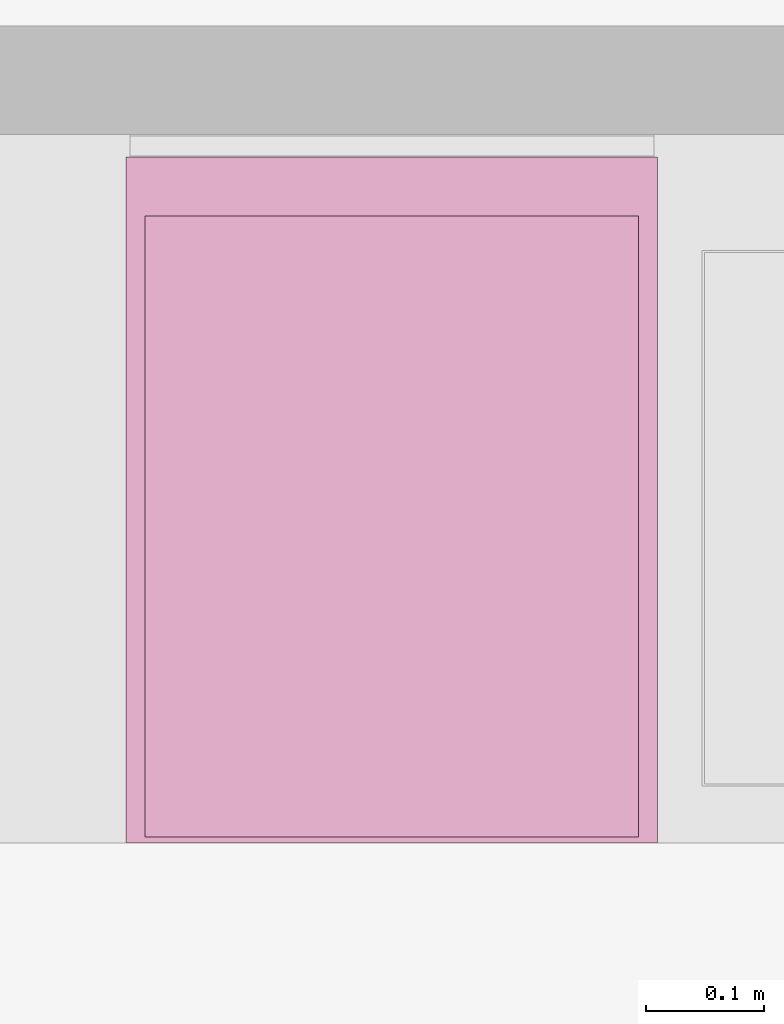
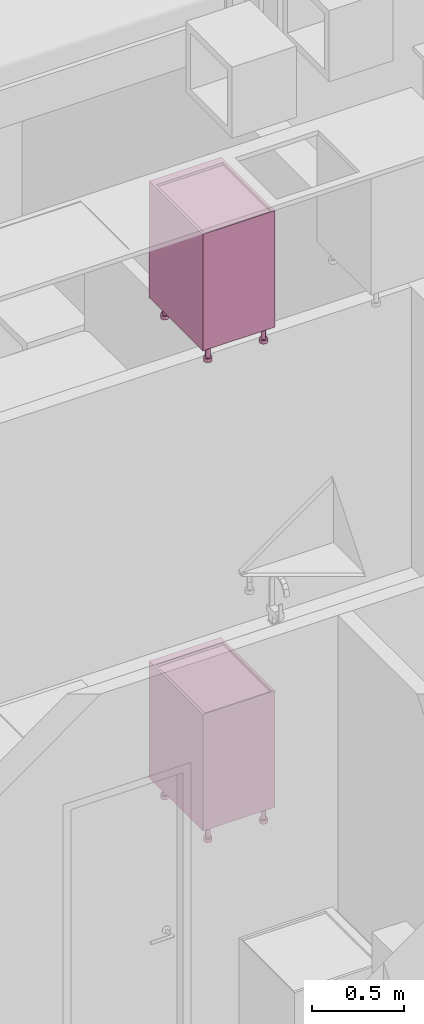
# One storey, part 66 of 125: 2 furnishings.
"""IFC2X3 building model written with IfcOpenShell, lengths in millimetres."""

from ifc_helpers import new_model, entity, si_unit, converted_unit, direction, frame, origin, place, context, subcontext, project, spatial, faceted_brep, source, transform, mapped, material, type_object, type_shapes, element, save


model = new_model("IFC2X3")

# Units and contexts
model_context = context("Model", 3, precision=0.01, world=origin(), true_north=direction((6.123233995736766e-17, 1.0)))
plan_context = context("Plan", 3, precision=0.01, world=origin(), true_north=direction((6.123233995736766e-17, 1.0)))
body_context = subcontext(model_context, "Body", "Model", "MODEL_VIEW")
ifc_project = project(units=[si_unit("LENGTHUNIT", "METRE", prefix="MILLI"), converted_unit("PLANEANGLEUNIT", "DEGREE", entity("IfcPlaneAngleMeasure", 0.017453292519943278), si_unit("PLANEANGLEUNIT", "RADIAN"), dimensions=[0, 0, 0, 0, 0, 0, 0]), si_unit("AREAUNIT", "SQUARE_METRE")], contexts=[model_context, plan_context])

# Site, building, storey, space
site_placement = place(None, origin())
site = spatial("IfcSite", under=ifc_project, at=site_placement, Name="Default", CompositionType="ELEMENT")
building_placement = place(site_placement, origin())
building = spatial("IfcBuilding", under=site, at=building_placement, CompositionType="ELEMENT")
storey_placement = place(building_placement, frame((0.0, 0.0, 3125.0)))
storey = spatial("IfcBuildingStorey", under=building, at=storey_placement, Name="2K", CompositionType="ELEMENT", Elevation=3125.0)
space_placement = place(storey_placement, origin())
space = spatial("IfcSpace", under=storey, at=space_placement, Name="2-1.2", CompositionType="ELEMENT", InteriorOrExteriorSpace="INTERNAL")

# Furnishings
ifc_material = material(Name="<Unnamed>")
furniture_type = type_object("IfcFurnitureType", Name="HR_Casework_Kitchen_Generic_Appliance_v1:Dishwasher", AssemblyPlace="NOTDEFINED", material=ifc_material)
shared_shape = source(origin(), body_context, "Body", "Brep", [
    faceted_brep([(230.70032643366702, -585.7846096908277, -3101.0), (235.6708891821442, -581.9705627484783, -3101.0), (225.70032643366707, -577.1243556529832, -3101.0), (222.32379306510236, -578.522961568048, -3101.0), (224.91198351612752, -588.1822198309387, -3101.0), (228.59982137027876, -574.8994949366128, -3101.0), (239.4849361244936, -577.0, -3101.0), (230.82468208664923, -572.0, -3101.0), (232.22328800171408, -568.6234666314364, -3101.0), (241.88254626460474, -571.2116570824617, -3101.0), (232.70032643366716, -565.0, -3101.0), (242.70032643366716, -565.0, -3101.0), (232.22328800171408, -561.3765333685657, -3101.0), (241.88254626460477, -558.7883429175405, -3101.0), (230.82468208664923, -558.0, -3101.0), (239.48493612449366, -553.0, -3101.0), (228.59982137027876, -555.1005050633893, -3101.0), (235.6708891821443, -548.0294372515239, -3101.0), (225.70032643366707, -552.8756443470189, -3101.0), (230.70032643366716, -544.2153903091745, -3101.0), (222.32379306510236, -551.477038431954, -3101.0), (224.91198351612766, -541.8177801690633, -3101.0), (218.70032643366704, -551.0, -3101.0), (218.7003264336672, -541.0, -3101.0), (215.0768598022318, -551.477038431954, -3101.0), (212.48866935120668, -541.8177801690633, -3101.0), (211.70032643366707, -552.8756443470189, -3101.0), (206.7003264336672, -544.2153903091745, -3101.0), (208.80083149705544, -555.1005050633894, -3101.0), (201.72976368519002, -548.0294372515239, -3101.0), (206.57597078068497, -558.0, -3101.0), (197.91571674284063, -553.0, -3101.0), (195.51810660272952, -558.7883429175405, -3101.0), (205.17736486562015, -561.3765333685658, -3101.0), (194.70032643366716, -565.0, -3101.0), (204.70032643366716, -565.0, -3101.0), (195.5181066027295, -571.2116570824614, -3101.0), (205.17736486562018, -568.6234666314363, -3101.0), (197.91571674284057, -577.0, -3101.0), (206.575970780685, -572.0, -3101.0), (201.72976368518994, -581.9705627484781, -3101.0), (208.80083149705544, -574.8994949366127, -3101.0), (206.70032643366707, -585.7846096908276, -3101.0), (211.70032643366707, -577.1243556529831, -3101.0), (212.48866935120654, -588.1822198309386, -3101.0), (215.0768598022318, -578.522961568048, -3101.0), (218.70032643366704, -589.0, -3101.0), (218.70032643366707, -579.0, -3101.0), (224.91198351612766, -541.8177801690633, -3125.0), (230.70032643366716, -544.2153903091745, -3125.0), (235.6708891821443, -548.0294372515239, -3125.0), (239.48493612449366, -553.0, -3125.0), (241.88254626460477, -558.7883429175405, -3125.0), (242.70032643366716, -565.0, -3125.0), (241.88254626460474, -571.2116570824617, -3125.0), (239.4849361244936, -577.0, -3125.0), (235.6708891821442, -581.9705627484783, -3125.0), (230.70032643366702, -585.7846096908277, -3125.0), (224.91198351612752, -588.1822198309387, -3125.0), (218.70032643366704, -589.0, -3125.0), (212.48866935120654, -588.1822198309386, -3125.0), (206.70032643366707, -585.7846096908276, -3125.0), (201.72976368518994, -581.9705627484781, -3125.0), (197.91571674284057, -577.0, -3125.0), (195.5181066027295, -571.2116570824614, -3125.0), (194.70032643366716, -565.0, -3125.0), (195.51810660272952, -558.7883429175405, -3125.0), (197.91571674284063, -553.0, -3125.0), (201.72976368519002, -548.0294372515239, -3125.0), (206.7003264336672, -544.2153903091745, -3125.0), (212.48866935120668, -541.8177801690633, -3125.0), (218.7003264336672, -541.0, -3125.0), (222.32379306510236, -578.522961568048, -3025.0), (225.70032643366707, -577.1243556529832, -3025.0), (228.59982137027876, -574.8994949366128, -3025.0), (230.82468208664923, -572.0, -3025.0), (232.22328800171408, -568.6234666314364, -3025.0), (232.70032643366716, -565.0, -3025.0), (232.2232880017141, -561.3765333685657, -3025.0), (230.8246820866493, -558.0, -3025.0), (228.59982137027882, -555.1005050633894, -3025.0), (225.70032643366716, -552.8756443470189, -3025.0), (222.32379306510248, -551.477038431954, -3025.0), (218.7003264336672, -551.0, -3025.0), (215.07685980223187, -551.477038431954, -3025.0), (211.7003264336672, -552.8756443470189, -3025.0), (208.8008314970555, -555.1005050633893, -3025.0), (206.57597078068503, -558.0, -3025.0), (205.17736486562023, -561.3765333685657, -3025.0), (204.70032643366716, -565.0, -3025.0), (205.17736486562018, -568.6234666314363, -3025.0), (206.575970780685, -572.0, -3025.0), (208.80083149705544, -574.8994949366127, -3025.0), (211.70032643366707, -577.1243556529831, -3025.0), (215.0768598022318, -578.522961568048, -3025.0), (218.70032643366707, -579.0, -3025.0)], [[[0, 1, 2]], [[0, 2, 3]], [[3, 4, 0]], [[2, 1, 5]], [[6, 5, 1]], [[7, 5, 6]], [[8, 7, 6]], [[8, 6, 9]], [[8, 9, 10]], [[10, 9, 11]], [[12, 10, 11]], [[12, 11, 13]], [[14, 12, 13]], [[14, 13, 15]], [[16, 14, 15]], [[15, 17, 16]], [[17, 18, 16]], [[18, 17, 19]], [[18, 19, 20]], [[21, 20, 19]], [[20, 21, 22]], [[22, 21, 23]], [[23, 24, 22]], [[24, 23, 25]], [[24, 25, 26]], [[27, 26, 25]], [[27, 28, 26]], [[27, 29, 28]], [[30, 28, 29]], [[31, 30, 29]], [[32, 30, 31]], [[33, 30, 32]], [[33, 32, 34]], [[34, 35, 33]], [[36, 35, 34]], [[36, 37, 35]], [[37, 36, 38]], [[39, 37, 38]], [[39, 38, 40]], [[39, 40, 41]], [[40, 42, 41]], [[41, 42, 43]], [[43, 42, 44]], [[44, 45, 43]], [[46, 45, 44]], [[4, 47, 46]], [[45, 46, 47]], [[4, 3, 47]], [[48, 49, 50, 51, 52, 53, 54, 55, 56, 57, 58, 59, 60, 61, 62, 63, 64, 65, 66, 67, 68, 69, 70, 71]], [[64, 36, 34, 65]], [[63, 38, 36, 64]], [[42, 40, 62, 61]], [[63, 62, 40, 38]], [[44, 42, 61, 60]], [[46, 44, 60, 59]], [[58, 4, 46, 59]], [[57, 0, 4, 58]], [[54, 53, 11, 9]], [[1, 0, 57, 56]], [[6, 55, 54, 9]], [[6, 1, 56, 55]], [[52, 13, 11, 53]], [[51, 15, 13, 52]], [[19, 17, 50, 49]], [[51, 50, 17, 15]], [[21, 19, 49, 48]], [[23, 21, 48, 71]], [[27, 69, 68, 29]], [[31, 67, 66, 32]], [[68, 67, 31, 29]], [[32, 66, 65, 34]], [[25, 70, 69, 27]], [[70, 25, 23, 71]], [[72, 73, 74, 75, 76, 77, 78, 79, 80, 81, 82, 83, 84, 85, 86, 87, 88, 89, 90, 91, 92, 93, 94, 95]], [[37, 39, 91, 90]], [[35, 37, 90, 89]], [[43, 45, 94, 93]], [[41, 43, 93, 92]], [[39, 41, 92, 91]], [[47, 95, 94, 45]], [[2, 5, 74, 73]], [[3, 2, 73, 72]], [[8, 10, 77, 76]], [[7, 8, 76, 75]], [[5, 7, 75, 74]], [[3, 72, 95, 47]], [[79, 78, 12, 14]], [[78, 77, 10, 12]], [[80, 16, 18, 81]], [[16, 80, 79, 14]], [[81, 18, 20, 82]], [[22, 83, 82, 20]], [[26, 28, 86, 85]], [[24, 26, 85, 84]], [[33, 35, 89, 88]], [[30, 33, 88, 87]], [[28, 30, 87, 86]], [[24, 84, 83, 22]]]),
    faceted_brep([(-117.2996735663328, -585.7846096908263, -3101.0), (-112.32911081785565, -581.9705627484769, -3101.0), (-122.29967356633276, -577.1243556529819, -3101.0), (-125.67620693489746, -578.5229615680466, -3101.0), (-123.08801648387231, -588.1822198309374, -3101.0), (-119.40017862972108, -574.8994949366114, -3101.0), (-108.51506387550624, -577.0, -3101.0), (-117.1753179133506, -572.0, -3101.0), (-115.77671199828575, -568.623466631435, -3101.0), (-106.11745373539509, -571.2116570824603, -3101.0), (-115.29967356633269, -565.0, -3101.0), (-105.29967356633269, -565.0, -3101.0), (-115.77671199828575, -561.3765333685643, -3101.0), (-106.11745373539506, -558.7883429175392, -3101.0), (-117.1753179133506, -558.0, -3101.0), (-108.51506387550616, -553.0, -3101.0), (-119.40017862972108, -555.1005050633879, -3101.0), (-112.32911081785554, -548.0294372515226, -3101.0), (-122.29967356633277, -552.8756443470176, -3101.0), (-117.29967356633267, -544.2153903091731, -3101.0), (-125.67620693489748, -551.4770384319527, -3101.0), (-123.08801648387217, -541.817780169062, -3101.0), (-129.29967356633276, -551.0, -3101.0), (-129.29967356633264, -541.0, -3101.0), (-132.92314019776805, -551.4770384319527, -3101.0), (-135.51133064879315, -541.817780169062, -3101.0), (-136.29967356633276, -552.8756443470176, -3101.0), (-141.29967356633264, -544.2153903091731, -3101.0), (-139.1991685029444, -555.100505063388, -3101.0), (-146.2702363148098, -548.0294372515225, -3101.0), (-141.42402921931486, -558.0, -3101.0), (-150.0842832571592, -553.0, -3101.0), (-152.4818933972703, -558.7883429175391, -3101.0), (-142.82263513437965, -561.3765333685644, -3101.0), (-153.2996735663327, -565.0, -3101.0), (-143.29967356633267, -565.0, -3101.0), (-152.48189339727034, -571.2116570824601, -3101.0), (-142.82263513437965, -568.6234666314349, -3101.0), (-150.08428325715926, -577.0, -3101.0), (-141.42402921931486, -572.0, -3101.0), (-146.2702363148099, -581.9705627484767, -3101.0), (-139.1991685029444, -574.8994949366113, -3101.0), (-141.29967356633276, -585.7846096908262, -3101.0), (-136.29967356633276, -577.1243556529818, -3101.0), (-135.5113306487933, -588.1822198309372, -3101.0), (-132.92314019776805, -578.5229615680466, -3101.0), (-129.2996735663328, -589.0, -3101.0), (-129.29967356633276, -579.0, -3101.0), (-123.08801648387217, -541.817780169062, -3125.0), (-117.29967356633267, -544.2153903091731, -3125.0), (-112.32911081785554, -548.0294372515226, -3125.0), (-108.51506387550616, -553.0, -3125.0), (-106.11745373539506, -558.7883429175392, -3125.0), (-105.29967356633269, -565.0, -3125.0), (-106.11745373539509, -571.2116570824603, -3125.0), (-108.51506387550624, -577.0, -3125.0), (-112.32911081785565, -581.9705627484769, -3125.0), (-117.2996735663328, -585.7846096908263, -3125.0), (-123.08801648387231, -588.1822198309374, -3125.0), (-129.2996735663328, -589.0, -3125.0), (-135.5113306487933, -588.1822198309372, -3125.0), (-141.29967356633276, -585.7846096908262, -3125.0), (-146.2702363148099, -581.9705627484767, -3125.0), (-150.08428325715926, -577.0, -3125.0), (-152.48189339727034, -571.2116570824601, -3125.0), (-153.2996735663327, -565.0, -3125.0), (-152.4818933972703, -558.7883429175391, -3125.0), (-150.0842832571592, -553.0, -3125.0), (-146.2702363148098, -548.0294372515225, -3125.0), (-141.29967356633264, -544.2153903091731, -3125.0), (-135.51133064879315, -541.817780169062, -3125.0), (-129.29967356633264, -541.0, -3125.0), (-125.67620693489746, -578.5229615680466, -3025.0), (-122.29967356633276, -577.1243556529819, -3025.0), (-119.40017862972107, -574.8994949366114, -3025.0), (-117.1753179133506, -572.0, -3025.0), (-115.77671199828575, -568.623466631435, -3025.0), (-115.29967356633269, -565.0, -3025.0), (-115.77671199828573, -561.3765333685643, -3025.0), (-117.17531791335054, -558.0, -3025.0), (-119.400178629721, -555.100505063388, -3025.0), (-122.29967356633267, -552.8756443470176, -3025.0), (-125.67620693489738, -551.4770384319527, -3025.0), (-129.29967356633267, -551.0, -3025.0), (-132.92314019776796, -551.4770384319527, -3025.0), (-136.29967356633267, -552.8756443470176, -3025.0), (-139.19916850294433, -555.1005050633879, -3025.0), (-141.4240292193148, -558.0, -3025.0), (-142.82263513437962, -561.3765333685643, -3025.0), (-143.29967356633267, -565.0, -3025.0), (-142.82263513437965, -568.6234666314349, -3025.0), (-141.42402921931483, -572.0, -3025.0), (-139.1991685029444, -574.8994949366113, -3025.0), (-136.29967356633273, -577.1243556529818, -3025.0), (-132.92314019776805, -578.5229615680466, -3025.0), (-129.29967356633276, -579.0, -3025.0)], [[[0, 1, 2]], [[0, 2, 3]], [[3, 4, 0]], [[2, 1, 5]], [[6, 5, 1]], [[7, 5, 6]], [[8, 7, 6]], [[8, 6, 9]], [[8, 9, 10]], [[10, 9, 11]], [[12, 10, 11]], [[12, 11, 13]], [[14, 12, 13]], [[14, 13, 15]], [[16, 14, 15]], [[15, 17, 16]], [[17, 18, 16]], [[18, 17, 19]], [[18, 19, 20]], [[21, 20, 19]], [[20, 21, 22]], [[22, 21, 23]], [[23, 24, 22]], [[24, 23, 25]], [[24, 25, 26]], [[27, 26, 25]], [[27, 28, 26]], [[27, 29, 28]], [[30, 28, 29]], [[31, 30, 29]], [[32, 30, 31]], [[33, 30, 32]], [[33, 32, 34]], [[34, 35, 33]], [[36, 35, 34]], [[36, 37, 35]], [[37, 36, 38]], [[39, 37, 38]], [[39, 38, 40]], [[39, 40, 41]], [[40, 42, 41]], [[41, 42, 43]], [[43, 42, 44]], [[44, 45, 43]], [[46, 45, 44]], [[4, 47, 46]], [[45, 46, 47]], [[4, 3, 47]], [[48, 49, 50, 51, 52, 53, 54, 55, 56, 57, 58, 59, 60, 61, 62, 63, 64, 65, 66, 67, 68, 69, 70, 71]], [[64, 36, 34, 65]], [[63, 38, 36, 64]], [[42, 40, 62, 61]], [[63, 62, 40, 38]], [[44, 42, 61, 60]], [[46, 44, 60, 59]], [[58, 4, 46, 59]], [[57, 0, 4, 58]], [[54, 53, 11, 9]], [[1, 0, 57, 56]], [[6, 55, 54, 9]], [[6, 1, 56, 55]], [[52, 13, 11, 53]], [[51, 15, 13, 52]], [[19, 17, 50, 49]], [[51, 50, 17, 15]], [[21, 19, 49, 48]], [[23, 21, 48, 71]], [[27, 69, 68, 29]], [[31, 67, 66, 32]], [[68, 67, 31, 29]], [[32, 66, 65, 34]], [[25, 70, 69, 27]], [[70, 25, 23, 71]], [[72, 73, 74, 75, 76, 77, 78, 79, 80, 81, 82, 83, 84, 85, 86, 87, 88, 89, 90, 91, 92, 93, 94, 95]], [[37, 39, 91, 90]], [[35, 37, 90, 89]], [[43, 45, 94, 93]], [[41, 43, 93, 92]], [[39, 41, 92, 91]], [[47, 95, 94, 45]], [[2, 5, 74, 73]], [[3, 2, 73, 72]], [[8, 10, 77, 76]], [[7, 8, 76, 75]], [[5, 7, 75, 74]], [[3, 72, 95, 47]], [[79, 78, 12, 14]], [[78, 77, 10, 12]], [[80, 16, 18, 81]], [[16, 80, 79, 14]], [[81, 18, 20, 82]], [[22, 83, 82, 20]], [[26, 28, 86, 85]], [[24, 26, 85, 84]], [[33, 35, 89, 88]], [[30, 33, 88, 87]], [[28, 30, 87, 86]], [[24, 84, 83, 22]]]),
    faceted_brep([(230.7003264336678, -120.78460969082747, -3101.0), (235.67088918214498, -116.9705627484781, -3101.0), (225.70032643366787, -112.12435565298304, -3101.0), (222.32379306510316, -113.52296156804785, -3101.0), (224.91198351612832, -123.18221983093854, -3101.0), (228.59982137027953, -109.89949493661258, -3101.0), (239.48493612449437, -112.0, -3101.0), (230.82468208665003, -107.0, -3101.0), (232.22328800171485, -103.62346663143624, -3101.0), (241.88254626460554, -106.21165708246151, -3101.0), (232.70032643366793, -100.0, -3101.0), (242.70032643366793, -100.0, -3101.0), (232.22328800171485, -96.37653336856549, -3101.0), (241.88254626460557, -93.78834291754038, -3101.0), (230.82468208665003, -93.0, -3101.0), (239.48493612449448, -88.0, -3101.0), (228.5998213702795, -90.10050506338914, -3101.0), (235.6708891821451, -83.02943725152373, -3101.0), (225.70032643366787, -87.87564434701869, -3101.0), (230.70032643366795, -79.21539030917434, -3101.0), (222.32379306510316, -86.47703843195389, -3101.0), (224.91198351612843, -76.81778016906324, -3101.0), (218.70032643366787, -86.0, -3101.0), (218.70032643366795, -76.0, -3101.0), (215.07685980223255, -86.47703843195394, -3101.0), (212.48866935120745, -76.81778016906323, -3101.0), (211.70032643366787, -87.87564434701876, -3101.0), (206.70032643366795, -79.21539030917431, -3101.0), (208.8008314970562, -90.10050506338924, -3101.0), (201.72976368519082, -83.02943725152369, -3101.0), (206.57597078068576, -93.0, -3101.0), (197.91571674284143, -88.0, -3101.0), (195.5181066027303, -93.7883429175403, -3101.0), (205.17736486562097, -96.37653336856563, -3101.0), (194.7003264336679, -100.0, -3101.0), (204.70032643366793, -100.0, -3101.0), (195.51810660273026, -106.21165708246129, -3101.0), (205.17736486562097, -103.62346663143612, -3101.0), (197.91571674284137, -112.0, -3101.0), (206.57597078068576, -107.0, -3101.0), (201.7297636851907, -116.97056274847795, -3101.0), (208.8008314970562, -109.8994949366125, -3101.0), (206.70032643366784, -120.78460969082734, -3101.0), (211.70032643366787, -112.12435565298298, -3101.0), (212.4886693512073, -123.18221983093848, -3101.0), (215.07685980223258, -113.52296156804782, -3101.0), (218.70032643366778, -124.0, -3101.0), (218.70032643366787, -114.0, -3101.0), (224.91198351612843, -76.81778016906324, -3125.0), (230.70032643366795, -79.21539030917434, -3125.0), (235.6708891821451, -83.02943725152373, -3125.0), (239.48493612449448, -88.0, -3125.0), (241.88254626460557, -93.78834291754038, -3125.0), (242.70032643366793, -100.0, -3125.0), (241.88254626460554, -106.21165708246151, -3125.0), (239.48493612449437, -112.0, -3125.0), (235.67088918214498, -116.9705627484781, -3125.0), (230.7003264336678, -120.78460969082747, -3125.0), (224.91198351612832, -123.18221983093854, -3125.0), (218.70032643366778, -124.0, -3125.0), (212.4886693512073, -123.18221983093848, -3125.0), (206.70032643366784, -120.78460969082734, -3125.0), (201.7297636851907, -116.97056274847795, -3125.0), (197.91571674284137, -112.0, -3125.0), (195.51810660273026, -106.21165708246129, -3125.0), (194.7003264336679, -100.0, -3125.0), (195.5181066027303, -93.7883429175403, -3125.0), (197.91571674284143, -88.0, -3125.0), (201.72976368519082, -83.02943725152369, -3125.0), (206.70032643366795, -79.21539030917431, -3125.0), (212.48866935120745, -76.81778016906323, -3125.0), (218.70032643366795, -76.0, -3125.0), (222.32379306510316, -113.52296156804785, -3025.0), (225.70032643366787, -112.12435565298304, -3025.0), (228.59982137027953, -109.89949493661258, -3025.0), (230.82468208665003, -107.0, -3025.0), (232.22328800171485, -103.62346663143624, -3025.0), (232.70032643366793, -100.0, -3025.0), (232.2232880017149, -96.37653336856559, -3025.0), (230.82468208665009, -93.0, -3025.0), (228.5998213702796, -90.1005050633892, -3025.0), (225.70032643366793, -87.87564434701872, -3025.0), (222.32379306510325, -86.47703843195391, -3025.0), (218.70032643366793, -86.0, -3025.0), (215.07685980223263, -86.4770384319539, -3025.0), (211.70032643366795, -87.8756443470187, -3025.0), (208.8008314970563, -90.10050506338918, -3025.0), (206.5759707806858, -93.0, -3025.0), (205.17736486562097, -96.37653336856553, -3025.0), (204.70032643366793, -100.0, -3025.0), (205.17736486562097, -103.6234666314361, -3025.0), (206.57597078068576, -107.0, -3025.0), (208.8008314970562, -109.8994949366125, -3025.0), (211.7003264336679, -112.12435565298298, -3025.0), (215.07685980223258, -113.52296156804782, -3025.0), (218.70032643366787, -114.0, -3025.0)], [[[0, 1, 2]], [[0, 2, 3]], [[3, 4, 0]], [[2, 1, 5]], [[6, 5, 1]], [[7, 5, 6]], [[8, 7, 6]], [[8, 6, 9]], [[8, 9, 10]], [[10, 9, 11]], [[12, 10, 11]], [[12, 11, 13]], [[14, 12, 13]], [[14, 13, 15]], [[16, 14, 15]], [[15, 17, 16]], [[17, 18, 16]], [[18, 17, 19]], [[18, 19, 20]], [[21, 20, 19]], [[20, 21, 22]], [[22, 21, 23]], [[23, 24, 22]], [[24, 23, 25]], [[24, 25, 26]], [[27, 26, 25]], [[27, 28, 26]], [[27, 29, 28]], [[30, 28, 29]], [[31, 30, 29]], [[32, 30, 31]], [[33, 30, 32]], [[33, 32, 34]], [[34, 35, 33]], [[36, 35, 34]], [[36, 37, 35]], [[37, 36, 38]], [[39, 37, 38]], [[39, 38, 40]], [[39, 40, 41]], [[40, 42, 41]], [[41, 42, 43]], [[43, 42, 44]], [[44, 45, 43]], [[46, 45, 44]], [[4, 47, 46]], [[45, 46, 47]], [[4, 3, 47]], [[48, 49, 50, 51, 52, 53, 54, 55, 56, 57, 58, 59, 60, 61, 62, 63, 64, 65, 66, 67, 68, 69, 70, 71]], [[64, 36, 34, 65]], [[63, 38, 36, 64]], [[42, 40, 62, 61]], [[63, 62, 40, 38]], [[44, 42, 61, 60]], [[46, 44, 60, 59]], [[58, 4, 46, 59]], [[57, 0, 4, 58]], [[54, 53, 11, 9]], [[1, 0, 57, 56]], [[6, 55, 54, 9]], [[6, 1, 56, 55]], [[52, 13, 11, 53]], [[51, 15, 13, 52]], [[19, 17, 50, 49]], [[51, 50, 17, 15]], [[21, 19, 49, 48]], [[23, 21, 48, 71]], [[27, 69, 68, 29]], [[31, 67, 66, 32]], [[68, 67, 31, 29]], [[32, 66, 65, 34]], [[25, 70, 69, 27]], [[70, 25, 23, 71]], [[72, 73, 74, 75, 76, 77, 78, 79, 80, 81, 82, 83, 84, 85, 86, 87, 88, 89, 90, 91, 92, 93, 94, 95]], [[37, 39, 91, 90]], [[35, 37, 90, 89]], [[43, 45, 94, 93]], [[41, 43, 93, 92]], [[39, 41, 92, 91]], [[47, 95, 94, 45]], [[2, 5, 74, 73]], [[3, 2, 73, 72]], [[8, 10, 77, 76]], [[7, 8, 76, 75]], [[5, 7, 75, 74]], [[3, 72, 95, 47]], [[79, 78, 12, 14]], [[78, 77, 10, 12]], [[80, 16, 18, 81]], [[16, 80, 79, 14]], [[81, 18, 20, 82]], [[22, 83, 82, 20]], [[26, 28, 86, 85]], [[24, 26, 85, 84]], [[33, 35, 89, 88]], [[30, 33, 88, 87]], [[28, 30, 87, 86]], [[24, 84, 83, 22]]]),
    faceted_brep([(-117.29967356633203, -120.78460969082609, -3101.0), (-112.32911081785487, -116.97056274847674, -3101.0), (-122.29967356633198, -112.12435565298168, -3101.0), (-125.67620693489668, -113.52296156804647, -3101.0), (-123.08801648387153, -123.18221983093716, -3101.0), (-119.40017862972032, -109.89949493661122, -3101.0), (-108.51506387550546, -112.0, -3101.0), (-117.17531791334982, -107.0, -3101.0), (-115.77671199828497, -103.62346663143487, -3101.0), (-106.1174537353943, -106.21165708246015, -3101.0), (-115.2996735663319, -100.0, -3101.0), (-105.29967356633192, -100.0, -3101.0), (-115.77671199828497, -96.37653336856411, -3101.0), (-106.11745373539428, -93.788342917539, -3101.0), (-117.17531791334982, -93.0, -3101.0), (-108.51506387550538, -88.0, -3101.0), (-119.40017862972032, -90.10050506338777, -3101.0), (-112.32911081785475, -83.02943725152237, -3101.0), (-122.29967356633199, -87.87564434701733, -3101.0), (-117.29967356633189, -79.21539030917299, -3101.0), (-125.6762069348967, -86.47703843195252, -3101.0), (-123.08801648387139, -76.81778016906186, -3101.0), (-129.299673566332, -86.0, -3101.0), (-129.29967356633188, -76.0, -3101.0), (-132.92314019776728, -86.47703843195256, -3101.0), (-135.51133064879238, -76.81778016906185, -3101.0), (-136.29967356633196, -87.87564434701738, -3101.0), (-141.29967356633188, -79.21539030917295, -3101.0), (-139.19916850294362, -90.10050506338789, -3101.0), (-146.270236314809, -83.02943725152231, -3101.0), (-141.4240292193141, -93.0, -3101.0), (-150.0842832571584, -88.0, -3101.0), (-152.48189339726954, -93.78834291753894, -3101.0), (-142.82263513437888, -96.37653336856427, -3101.0), (-153.2996735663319, -100.0, -3101.0), (-143.2996735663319, -100.0, -3101.0), (-152.48189339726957, -106.21165708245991, -3101.0), (-142.82263513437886, -103.62346663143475, -3101.0), (-150.0842832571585, -112.0, -3101.0), (-141.4240292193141, -107.0, -3101.0), (-146.27023631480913, -116.97056274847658, -3101.0), (-139.19916850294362, -109.89949493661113, -3101.0), (-141.299673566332, -120.78460969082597, -3101.0), (-136.29967356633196, -112.1243556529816, -3101.0), (-135.51133064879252, -123.18221983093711, -3101.0), (-132.92314019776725, -113.52296156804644, -3101.0), (-129.29967356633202, -124.0, -3101.0), (-129.29967356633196, -114.0, -3101.0), (-123.08801648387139, -76.81778016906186, -3125.0), (-117.29967356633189, -79.21539030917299, -3125.0), (-112.32911081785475, -83.02943725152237, -3125.0), (-108.51506387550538, -88.0, -3125.0), (-106.11745373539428, -93.788342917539, -3125.0), (-105.29967356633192, -100.0, -3125.0), (-106.1174537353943, -106.21165708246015, -3125.0), (-108.51506387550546, -112.0, -3125.0), (-112.32911081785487, -116.97056274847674, -3125.0), (-117.29967356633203, -120.78460969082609, -3125.0), (-123.08801648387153, -123.18221983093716, -3125.0), (-129.29967356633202, -124.0, -3125.0), (-135.51133064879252, -123.18221983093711, -3125.0), (-141.299673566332, -120.78460969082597, -3125.0), (-146.27023631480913, -116.97056274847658, -3125.0), (-150.0842832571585, -112.0, -3125.0), (-152.48189339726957, -106.21165708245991, -3125.0), (-153.2996735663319, -100.0, -3125.0), (-152.48189339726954, -93.78834291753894, -3125.0), (-150.0842832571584, -88.0, -3125.0), (-146.270236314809, -83.02943725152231, -3125.0), (-141.29967356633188, -79.21539030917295, -3125.0), (-135.51133064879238, -76.81778016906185, -3125.0), (-129.29967356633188, -76.0, -3125.0), (-125.6762069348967, -113.52296156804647, -3025.0), (-122.29967356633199, -112.12435565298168, -3025.0), (-119.40017862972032, -109.89949493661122, -3025.0), (-117.17531791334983, -107.0, -3025.0), (-115.776711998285, -103.62346663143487, -3025.0), (-115.29967356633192, -100.0, -3025.0), (-115.77671199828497, -96.37653336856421, -3025.0), (-117.17531791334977, -93.0, -3025.0), (-119.40017862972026, -90.10050506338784, -3025.0), (-122.2996735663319, -87.87564434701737, -3025.0), (-125.67620693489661, -86.47703843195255, -3025.0), (-129.2996735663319, -86.0, -3025.0), (-132.9231401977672, -86.47703843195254, -3025.0), (-136.2996735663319, -87.87564434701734, -3025.0), (-139.19916850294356, -90.10050506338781, -3025.0), (-141.42402921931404, -93.0, -3025.0), (-142.82263513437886, -96.37653336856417, -3025.0), (-143.29967356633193, -100.0, -3025.0), (-142.8226351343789, -103.62346663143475, -3025.0), (-141.4240292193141, -107.0, -3025.0), (-139.19916850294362, -109.89949493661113, -3025.0), (-136.29967356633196, -112.1243556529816, -3025.0), (-132.92314019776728, -113.52296156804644, -3025.0), (-129.299673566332, -114.0, -3025.0)], [[[0, 1, 2]], [[0, 2, 3]], [[3, 4, 0]], [[2, 1, 5]], [[6, 5, 1]], [[7, 5, 6]], [[8, 7, 6]], [[8, 6, 9]], [[8, 9, 10]], [[10, 9, 11]], [[12, 10, 11]], [[12, 11, 13]], [[14, 12, 13]], [[14, 13, 15]], [[16, 14, 15]], [[15, 17, 16]], [[17, 18, 16]], [[18, 17, 19]], [[18, 19, 20]], [[21, 20, 19]], [[20, 21, 22]], [[22, 21, 23]], [[23, 24, 22]], [[24, 23, 25]], [[24, 25, 26]], [[27, 26, 25]], [[27, 28, 26]], [[27, 29, 28]], [[30, 28, 29]], [[31, 30, 29]], [[32, 30, 31]], [[33, 30, 32]], [[33, 32, 34]], [[34, 35, 33]], [[36, 35, 34]], [[36, 37, 35]], [[37, 36, 38]], [[39, 37, 38]], [[39, 38, 40]], [[39, 40, 41]], [[40, 42, 41]], [[41, 42, 43]], [[43, 42, 44]], [[44, 45, 43]], [[46, 45, 44]], [[4, 47, 46]], [[45, 46, 47]], [[4, 3, 47]], [[48, 49, 50, 51, 52, 53, 54, 55, 56, 57, 58, 59, 60, 61, 62, 63, 64, 65, 66, 67, 68, 69, 70, 71]], [[64, 36, 34, 65]], [[63, 38, 36, 64]], [[42, 40, 62, 61]], [[63, 62, 40, 38]], [[44, 42, 61, 60]], [[46, 44, 60, 59]], [[58, 4, 46, 59]], [[57, 0, 4, 58]], [[54, 53, 11, 9]], [[1, 0, 57, 56]], [[6, 55, 54, 9]], [[6, 1, 56, 55]], [[52, 13, 11, 53]], [[51, 15, 13, 52]], [[19, 17, 50, 49]], [[51, 50, 17, 15]], [[21, 19, 49, 48]], [[23, 21, 48, 71]], [[27, 69, 68, 29]], [[31, 67, 66, 32]], [[68, 67, 31, 29]], [[32, 66, 65, 34]], [[25, 70, 69, 27]], [[70, 25, 23, 71]], [[72, 73, 74, 75, 76, 77, 78, 79, 80, 81, 82, 83, 84, 85, 86, 87, 88, 89, 90, 91, 92, 93, 94, 95]], [[37, 39, 91, 90]], [[35, 37, 90, 89]], [[43, 45, 94, 93]], [[41, 43, 93, 92]], [[39, 41, 92, 91]], [[47, 95, 94, 45]], [[2, 5, 74, 73]], [[3, 2, 73, 72]], [[8, 10, 77, 76]], [[7, 8, 76, 75]], [[5, 7, 75, 74]], [[3, 72, 95, 47]], [[79, 78, 12, 14]], [[78, 77, 10, 12]], [[80, 16, 18, 81]], [[16, 80, 79, 14]], [[81, 18, 20, 82]], [[22, 83, 82, 20]], [[26, 28, 86, 85]], [[24, 26, 85, 84]], [[33, 35, 89, 88]], [[30, 33, 88, 87]], [[28, 30, 87, 86]], [[24, 84, 83, 22]]]),
    faceted_brep([(253.70032643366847, -19.0, -3009.0), (-164.2996735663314, -19.0, -3009.0), (-164.2996735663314, -595.0, -3009.0), (253.70032643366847, -595.0, -3009.0), (253.70032643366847, -19.0, -3025.0), (253.70032643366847, -595.0, -3025.0), (-164.2996735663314, -595.0, -3025.0), (-164.2996735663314, -19.0, -3025.0)], [[[0, 1, 2, 3]], [[4, 5, 6, 7]], [[1, 0, 4, 7]], [[2, 1, 7, 6]], [[3, 2, 6, 5]], [[0, 3, 5, 4]]]),
    faceted_brep([(-180.2996735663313, -19.0, -2255.0), (-180.2996735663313, -600.0, -2255.0), (269.7003264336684, -600.0, -2255.0), (269.7003264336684, -19.0, -2255.0), (253.7003264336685, -19.0, -2255.0), (253.7003264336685, -595.0, -2255.0), (-164.29967356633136, -595.0, -2255.0), (-164.29967356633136, -19.0, -2255.0), (-180.2996735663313, -19.0, -3025.0), (-164.29967356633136, -19.0, -3025.0), (-164.29967356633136, -595.0, -3025.0), (253.7003264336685, -595.0, -3025.0), (253.7003264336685, -19.0, -3025.0), (269.7003264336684, -19.0, -3025.0), (269.7003264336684, -600.0, -3025.0), (-180.2996735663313, -600.0, -3025.0)], [[[0, 1, 2, 3, 4, 5, 6, 7]], [[8, 9, 10, 11, 12, 13, 14, 15]], [[1, 0, 8, 15]], [[0, 7, 9, 8]], [[7, 6, 10, 9]], [[5, 4, 12, 11]], [[4, 3, 13, 12]], [[3, 2, 14, 13]], [[2, 1, 15, 14]], [[6, 5, 11, 10]]]),
    faceted_brep([(253.70032643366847, -69.0, -2255.0), (253.70032643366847, -19.0, -2255.0), (-164.2996735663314, -19.0, -2255.0), (-164.2996735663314, -69.0, -2255.0), (253.70032643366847, -69.0, -2271.0), (-164.2996735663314, -69.0, -2271.0), (-164.2996735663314, -19.0, -2271.0), (253.70032643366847, -19.0, -2271.0)], [[[0, 1, 2, 3]], [[4, 5, 6, 7]], [[0, 3, 5, 4]], [[3, 2, 6, 5]], [[2, 1, 7, 6]], [[1, 0, 4, 7]]]),
    faceted_brep([(253.7003264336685, -19.0, -2271.0), (-164.29967356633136, -19.0, -2271.0), (-164.29967356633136, -595.0, -2271.0), (253.7003264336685, -595.0, -2271.0), (253.7003264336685, -19.0, -3009.0), (253.7003264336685, -595.0, -3009.0), (-164.29967356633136, -595.0, -3009.0), (-164.29967356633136, -19.0, -3009.0)], [[[0, 1, 2, 3]], [[4, 5, 6, 7]], [[1, 0, 4, 7]], [[2, 1, 7, 6]], [[3, 2, 6, 5]], [[0, 3, 5, 4]]]),
])
type_shapes(furniture_type, [shared_shape])
for number, where, name in (
    (1, (1675.293208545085, 11187.0, 3125.0), "HR_Casework_Kitchen_Generic_Appliance_v1:Dishwasher"),
    (2, (1675.293208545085, 11187.0, 6295.0), "HR_Casework_Kitchen_Generic_Appliance_v1:Dishwasher"),
):
    element("IfcFurnishingElement", number, at=place(space_placement, frame(where)), inside=space, type_object=furniture_type, material=ifc_material, Name=name, ObjectType="HR_Casework_Kitchen_Generic_Appliance_v1:Dishwasher", context=body_context, shape_type="MappedRepresentation", body=[
        mapped(shared_shape, transform((0.0, 0.0, 0.0), scale=1.0)),
    ])

save(model, "model.ifc")
